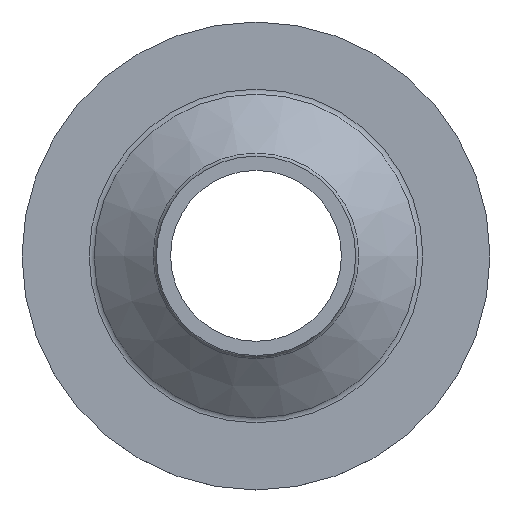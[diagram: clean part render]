
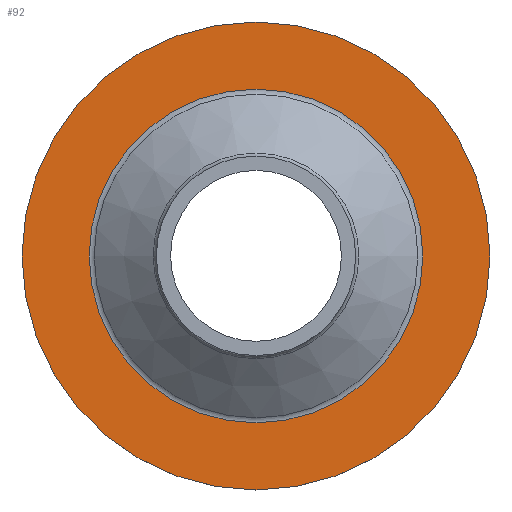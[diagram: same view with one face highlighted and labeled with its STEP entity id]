
A CAD part, top view. The second image highlights one B-rep face of the part: STEP entity #92.
In plain terms, the highlighted planar face has unit normal (0, 0, 1).
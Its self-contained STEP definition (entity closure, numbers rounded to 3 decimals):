
#53=CARTESIAN_POINT('',(28.75,0.,1.3));
#54=VERTEX_POINT('',#53);
#61=CARTESIAN_POINT('',(0.,0.,1.3));
#62=DIRECTION('',(1.,-0.,-0.));
#63=DIRECTION('',(0.,-0.,1.));
#64=AXIS2_PLACEMENT_3D('',#61,#63,#62);
#65=CIRCLE('',#64,28.75);
#66=EDGE_CURVE('',#54,#54,#65,.T.);
#73=CARTESIAN_POINT('',(0.,0.,1.3));
#74=DIRECTION('',(1.,0.,0.));
#75=DIRECTION('',(0.,0.,-1.));
#76=AXIS2_PLACEMENT_3D('',#73,#75,#74);
#77=PLANE('',#76);
#78=ORIENTED_EDGE('',*,*,#66,.F.);
#79=EDGE_LOOP('',(#78));
#80=FACE_OUTER_BOUND('',#79,.F.);
#81=CARTESIAN_POINT('',(20.5,0.,1.3));
#82=VERTEX_POINT('',#81);
#83=CARTESIAN_POINT('',(0.,0.,1.3));
#84=DIRECTION('',(1.,0.,0.));
#85=DIRECTION('',(0.,0.,1.));
#86=AXIS2_PLACEMENT_3D('',#83,#85,#84);
#87=CIRCLE('',#86,20.5);
#88=EDGE_CURVE('',#82,#82,#87,.T.);
#89=ORIENTED_EDGE('E10',*,*,#88,.T.);
#90=EDGE_LOOP('',(#89));
#91=FACE_BOUND('',#90,.F.);
#92=ADVANCED_FACE('F3',(#80,#91),#77,.F.);
